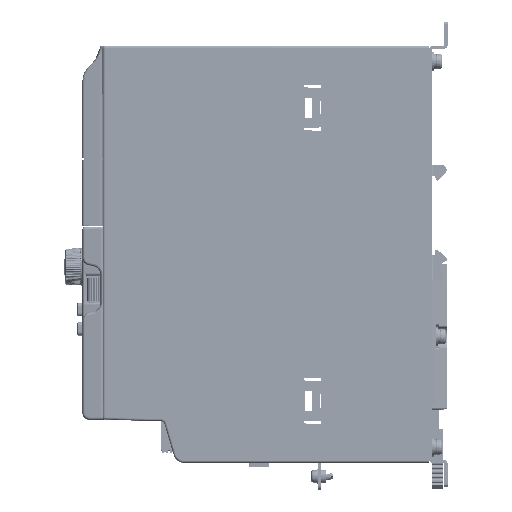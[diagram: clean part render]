
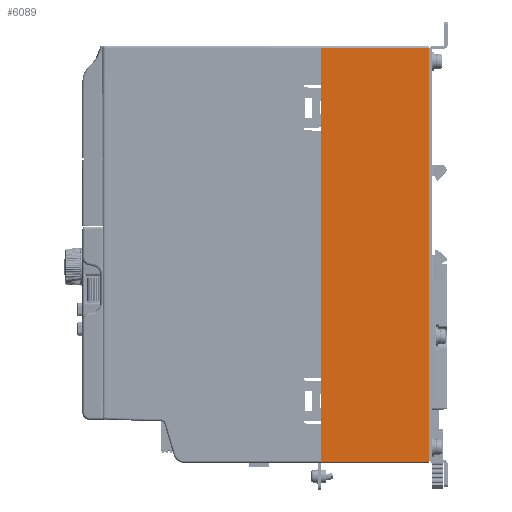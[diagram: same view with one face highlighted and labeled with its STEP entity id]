
A CAD part, left-side view. The second image highlights one B-rep face of the part: STEP entity #6089.
In plain terms, the highlighted planar face has unit normal (-1, 0, 0).
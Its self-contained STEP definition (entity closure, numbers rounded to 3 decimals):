
#612=DIRECTION('',(0.,0.,1.));
#613=VECTOR('',#612,183.);
#614=CARTESIAN_POINT('',(-47.5,-47.5,-91.5));
#615=LINE('',#614,#613);
#640=DIRECTION('',(0.,1.,0.));
#641=VECTOR('',#640,47.5);
#642=CARTESIAN_POINT('',(-47.5,-47.5,91.5));
#643=LINE('',#642,#641);
#663=DIRECTION('',(0.,0.,-1.));
#664=VECTOR('',#663,183.);
#665=CARTESIAN_POINT('',(-47.5,0.,91.5));
#666=LINE('',#665,#664);
#2257=DIRECTION('',(0.,-1.,0.));
#2258=VECTOR('',#2257,47.5);
#2259=CARTESIAN_POINT('',(-47.5,0.,-91.5));
#2260=LINE('',#2259,#2258);
#2722=CARTESIAN_POINT('',(-47.5,-47.5,91.5));
#2723=VERTEX_POINT('',#2722);
#2724=CARTESIAN_POINT('',(-47.5,-47.5,-91.5));
#2725=VERTEX_POINT('',#2724);
#2808=CARTESIAN_POINT('',(-47.5,0.,91.5));
#2809=VERTEX_POINT('',#2808);
#2810=CARTESIAN_POINT('',(-47.5,0.,-91.5));
#2811=VERTEX_POINT('',#2810);
#6077=CARTESIAN_POINT('',(-47.5,0.,-92.5));
#6078=DIRECTION('',(-1.,0.,0.));
#6079=DIRECTION('',(0.,-1.,0.));
#6080=AXIS2_PLACEMENT_3D('',#6077,#6078,#6079);
#6081=PLANE('',#6080);
#6082=ORIENTED_EDGE('',*,*,#3433,.F.);
#6083=ORIENTED_EDGE('',*,*,#3399,.F.);
#6085=ORIENTED_EDGE('',*,*,#6084,.F.);
#6086=ORIENTED_EDGE('',*,*,#3460,.F.);
#6087=EDGE_LOOP('',(#6082,#6083,#6085,#6086));
#6088=FACE_OUTER_BOUND('',#6087,.F.);
#6089=ADVANCED_FACE('',(#6088),#6081,.T.);
#3399=EDGE_CURVE('',#2725,#2723,#615,.T.);
#3433=EDGE_CURVE('',#2723,#2809,#643,.T.);
#3460=EDGE_CURVE('',#2809,#2811,#666,.T.);
#6084=EDGE_CURVE('',#2811,#2725,#2260,.T.);
